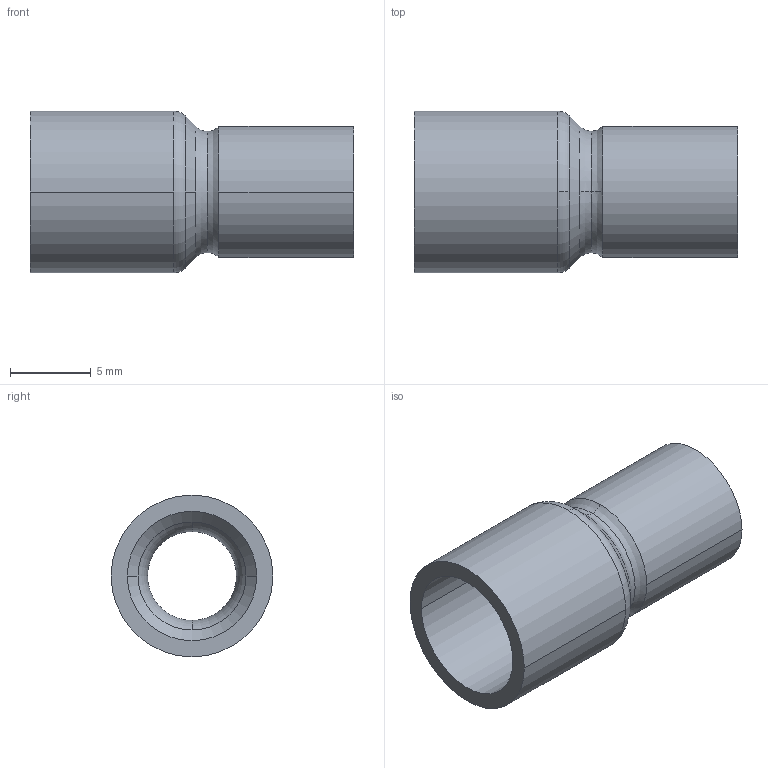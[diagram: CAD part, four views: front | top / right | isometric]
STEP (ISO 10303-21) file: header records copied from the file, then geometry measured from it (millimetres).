
FILE_DESCRIPTION((''),'2;1');
FILE_NAME('G:\Technics\CAD\Bauteile\Serie 15243\15243106.stp','2005-10-21T12:49:28',('boden'),(''),'Autodesk Inventor 8','Autodesk Inventor 8','');
FILE_SCHEMA(('AUTOMOTIVE_DESIGN { 1 0 10303 214 1 1 1 1 }'));
Length unit declared in the file: millimetre
Products named in the file (1): 15243106
Bounding box: 20 x 10 x 10 mm (x, y, z)
Volume: 513.2 mm3; surface area: 1077.1 mm2
Topology: 1 solids, 1 shells, 24 faces, 60 edges, 38 vertices
Faces by surface type: cylinder 8, torus 6, bspline 4, cone 4, plane 2
Entity records: 931 total; most frequent: CARTESIAN_POINT 299, DIRECTION 150, ORIENTED_EDGE 120, AXIS2_PLACEMENT_3D 69, EDGE_CURVE 60, CIRCLE 48, VERTEX_POINT 38, EDGE_LOOP 26
